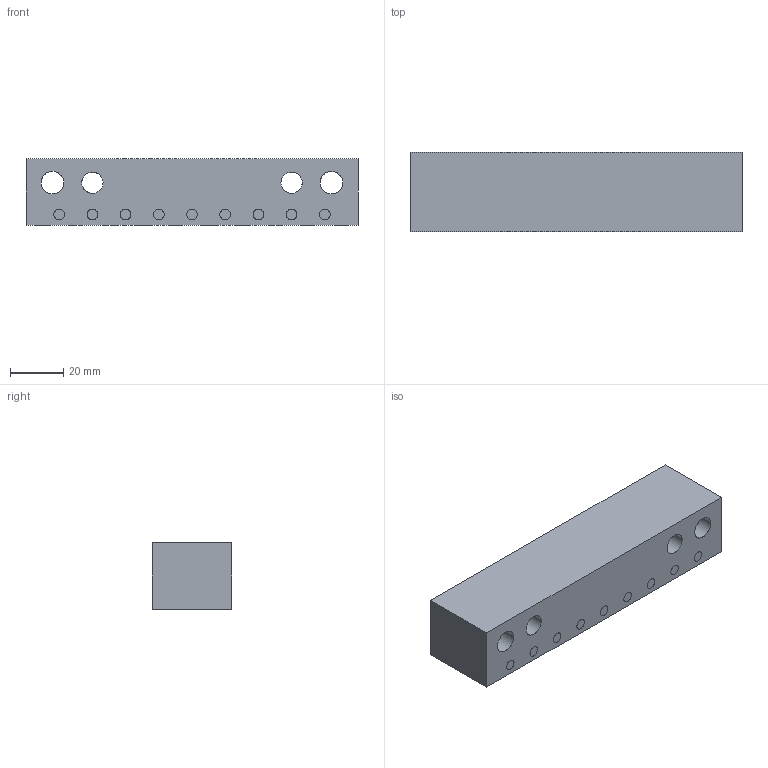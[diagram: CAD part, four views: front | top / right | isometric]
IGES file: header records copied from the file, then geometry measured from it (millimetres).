
Start section: START RECORD GO HERE.
Global section: file name: G40525125.igs; native system: DASSAULT SYSTEMES CATIA V5 R20 - www.3ds.com; preprocessor: CATIA Version 5 Release 20 ; author: r.borello; organization: CFTORINO; date: 20190624.150024; units: millimetre
Bounding box: 125 x 30 x 25 mm (x, y, z)
Surface area: 21514.5 mm2 (no closed solid volume)
Topology: 0 solids, 0 shells, 386 faces, 1656 edges, 1480 vertices
Faces by surface type: revolution 340, plane 46
